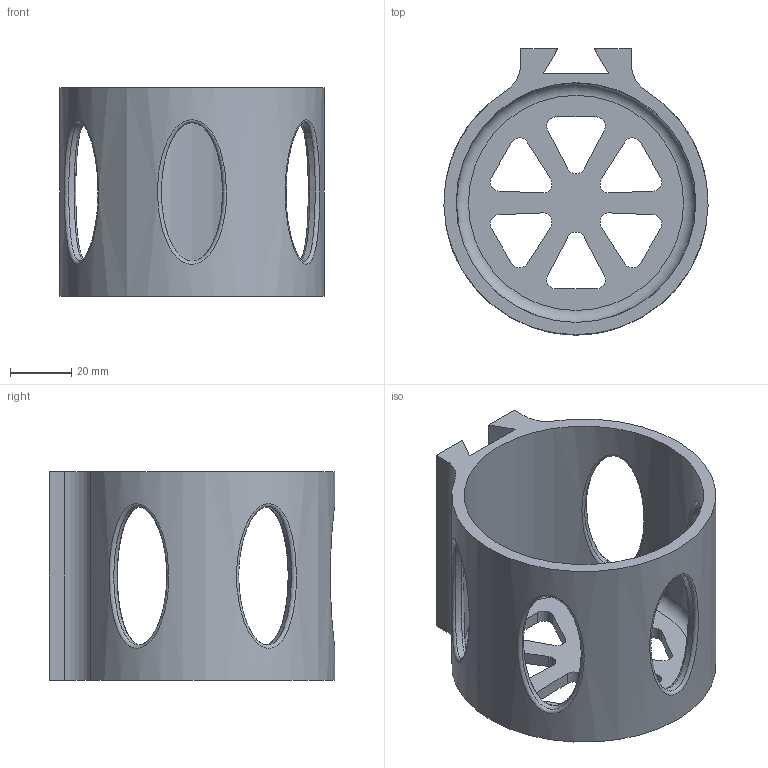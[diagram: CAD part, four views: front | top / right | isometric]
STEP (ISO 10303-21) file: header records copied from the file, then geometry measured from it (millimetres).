
FILE_DESCRIPTION(/* description */ ('','CAx-IF Rec.Pracs.---Representation and Presentation of Product Manufacturing Information (PMI)---4.0---2014-10-13'),/* implementation_level */ '2;1');
FILE_NAME(/* name */ '01_Getraenkehalter_Teil-01.step',/* time_stamp */ '2024-12-13T16:37:54+01:00',/* author */ (''),/* organization */ (''),/* preprocessor_version */ 'ST-DEVELOPER v20',/* originating_system */ 'Autodesk Translation Framework v13.20.0.188',/* authorisation */ '');
FILE_SCHEMA (('AP242_MANAGED_MODEL_BASED_3D_ENGINEERING_MIM_LF { 1 0 10303 442 1 1 4 }'));
Length unit declared in the file: millimetre
Products named in the file (1): 01_Getraenkehalter_B01
Bounding box: 85.98 x 93 x 68 mm (x, y, z)
Volume: 81890.9 mm3; surface area: 41920.4 mm2
Topology: 1 solids, 1 shells, 66 faces, 188 edges, 125 vertices
Faces by surface type: plane 28, cylinder 22, bspline 15, torus 1
Full cylindrical faces by diameter (mm): 78 x1
Entity records: 4330 total; most frequent: CARTESIAN_POINT 2586, ORIENTED_EDGE 376, DIRECTION 313, EDGE_CURVE 188, VERTEX_POINT 125, AXIS2_PLACEMENT_3D 108, LINE 97, VECTOR 97
